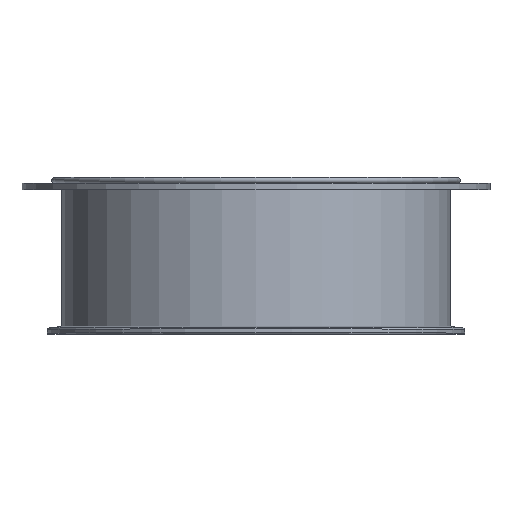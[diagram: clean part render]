
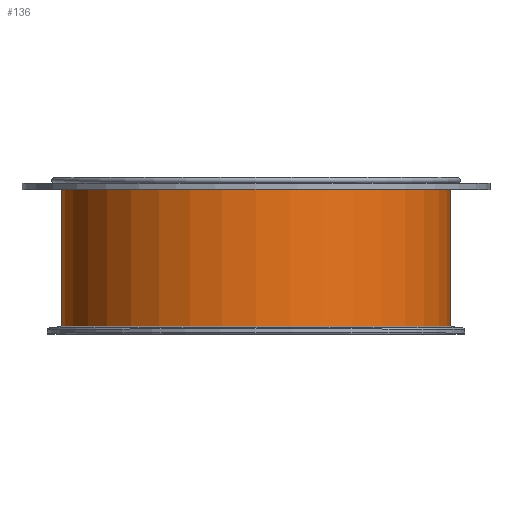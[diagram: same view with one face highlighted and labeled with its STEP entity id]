
A CAD part, top view. The second image highlights one B-rep face of the part: STEP entity #136.
In plain terms, the highlighted cylindrical face has radius 125.8 mm (diameter 251.6 mm), a full revolution.
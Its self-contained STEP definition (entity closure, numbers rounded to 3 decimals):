
#108=CYLINDRICAL_SURFACE('',#502,125.8);
#136=ADVANCED_FACE('',(#173,#174),#108,.T.);
#173=FACE_BOUND('',#245,.T.);
#174=FACE_BOUND('',#246,.T.);
#245=EDGE_LOOP('',(#317));
#246=EDGE_LOOP('',(#318));
#317=ORIENTED_EDGE('',*,*,#414,.F.);
#318=ORIENTED_EDGE('',*,*,#422,.F.);
#378=VERTEX_POINT('',#690);
#386=VERTEX_POINT('',#711);
#414=EDGE_CURVE('',#378,#378,#450,.T.);
#422=EDGE_CURVE('',#386,#386,#458,.T.);
#450=CIRCLE('',#487,125.8);
#458=CIRCLE('',#500,125.8);
#487=AXIS2_PLACEMENT_3D('',#689,#556,#557);
#500=AXIS2_PLACEMENT_3D('',#710,#582,#583);
#502=AXIS2_PLACEMENT_3D('',#713,#586,#587);
#556=DIRECTION('',(0.,-1.,0.));
#557=DIRECTION('',(-1.,0.,0.));
#582=DIRECTION('',(0.,1.,0.));
#583=DIRECTION('',(1.,0.,0.));
#586=DIRECTION('',(0.,1.,0.));
#587=DIRECTION('',(1.,0.,0.));
#689=CARTESIAN_POINT('',(0.,5.196,0.));
#690=CARTESIAN_POINT('',(-125.8,5.196,0.));
#710=CARTESIAN_POINT('',(0.,99.2,0.));
#711=CARTESIAN_POINT('',(125.8,99.2,0.));
#713=CARTESIAN_POINT('',(0.,-192.076,0.));
